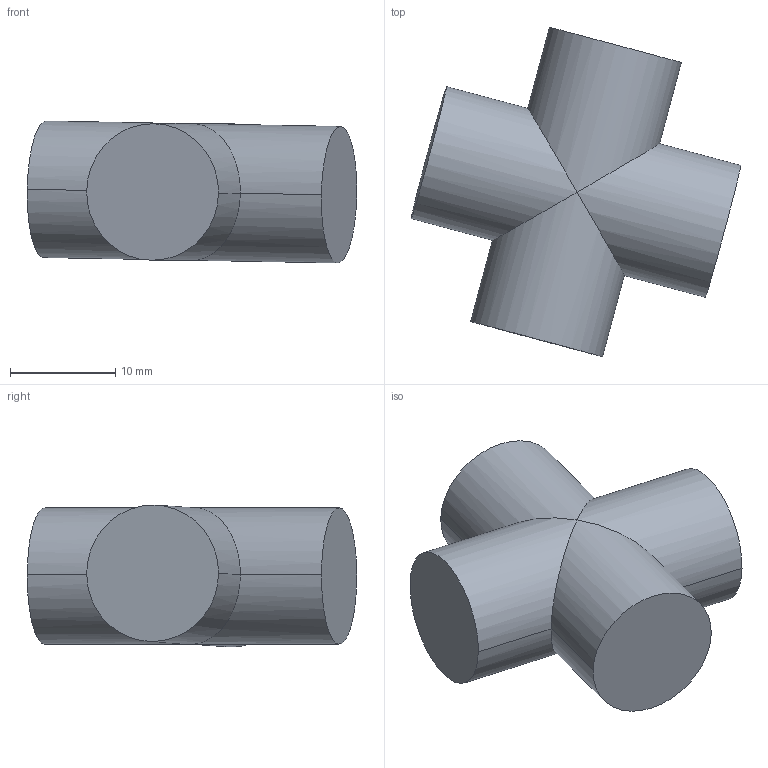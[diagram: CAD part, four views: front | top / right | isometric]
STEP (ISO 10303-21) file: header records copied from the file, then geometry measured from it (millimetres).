
FILE_DESCRIPTION (( 'STEP AP214' ), '1' );
FILE_NAME ('IRB365_1.5-1300_OmniCore_rev00_CROSS_JOINT_2_CAD.step', '2025-09-09T11:52:04', ( '' ), ( '' ), 'SwSTEP 2.0', 'SolidWorks 2024', '' );
FILE_SCHEMA (( 'AUTOMOTIVE_DESIGN' ));
Length unit declared in the file: millimetre
Products named in the file (1): IRB365_1.5-1300_OmniCore_rev00_CROSS_JOINT_2_CAD
Bounding box: 31.37 x 31.38 x 13.52 mm (x, y, z)
Volume: 6233.8 mm3; surface area: 2223.7 mm2
Topology: 1 solids, 1 shells, 12 faces, 24 edges, 14 vertices
Faces by surface type: cylinder 8, plane 4
Entity records: 463 total; most frequent: CARTESIAN_POINT 75, DIRECTION 50, ORIENTED_EDGE 48, EDGE_CURVE 24, AXIS2_PLACEMENT_3D 21, VERTEX_POINT 14, UNCERTAINTY_MEASURE_WITH_UNIT 14, FILL_AREA_STYLE 13
